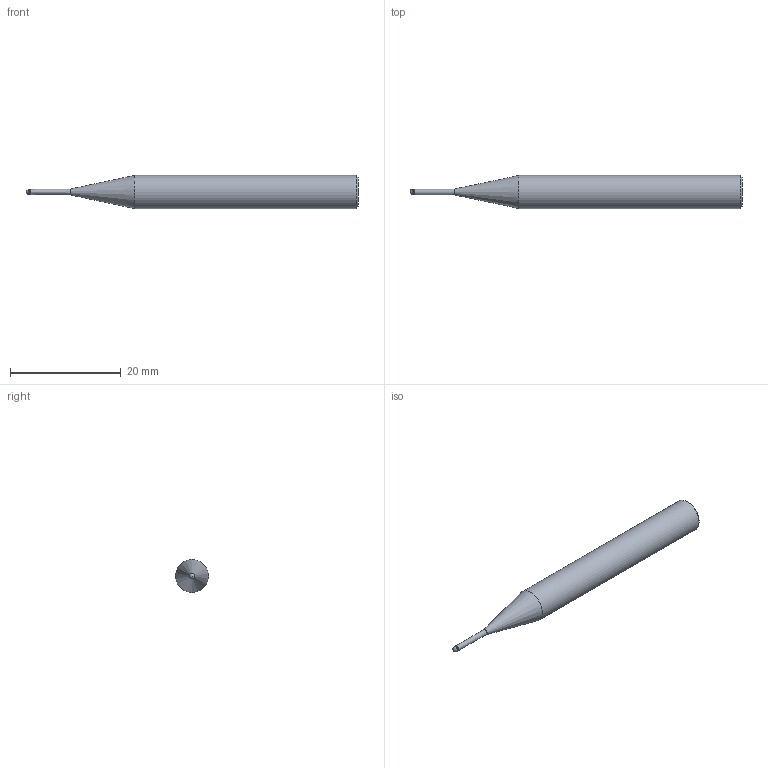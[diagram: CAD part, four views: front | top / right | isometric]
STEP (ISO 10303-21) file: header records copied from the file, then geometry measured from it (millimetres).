
FILE_DESCRIPTION(/* description */ (''),/* implementation_level */ '2;1');
FILE_NAME(/* name */ 'HGXPB2010-8-T0.4 0660.stp',/* time_stamp */ '2026-01-22T08:55:11+08:00',/* author */ (''),/* organization */ (''),/* preprocessor_version */ 'ST-DEVELOPER v16',/* originating_system */ 'SIEMENS PLM Software NX 10.0',/* authorisation */ '');
FILE_SCHEMA (('CONFIG_CONTROL_DESIGN'));
Length unit declared in the file: millimetre
Products named in the file (1): HGXPB2010-8-T0.4 0660_x_t
Bounding box: 60 x 6 x 6 mm (x, y, z)
Volume: 1278.7 mm3; surface area: 942.6 mm2
Topology: 1 solids, 1 shells, 9 faces, 17 edges, 10 vertices
Faces by surface type: cylinder 3, cone 3, plane 2, sphere 1
Full cylindrical faces by diameter (mm): 0.95 x1, 1 x1, 6 x1
Entity records: 258 total; most frequent: DIRECTION 36, CARTESIAN_POINT 26, AXIS2_PLACEMENT_3D 18, EDGE_LOOP 16, ORIENTED_EDGE 16, FACE_BOUND 14, ADVANCED_FACE 9, VERTEX_POINT 8
